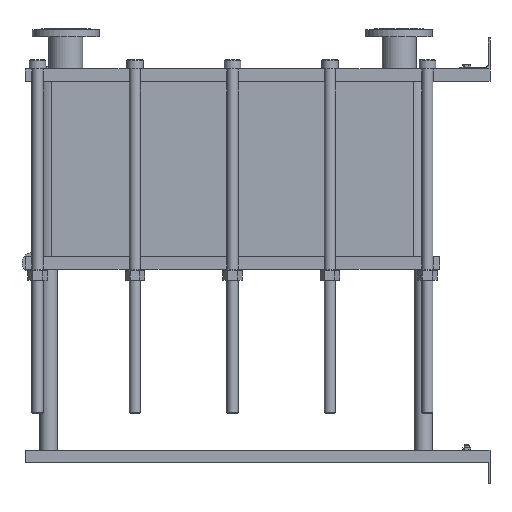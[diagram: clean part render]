
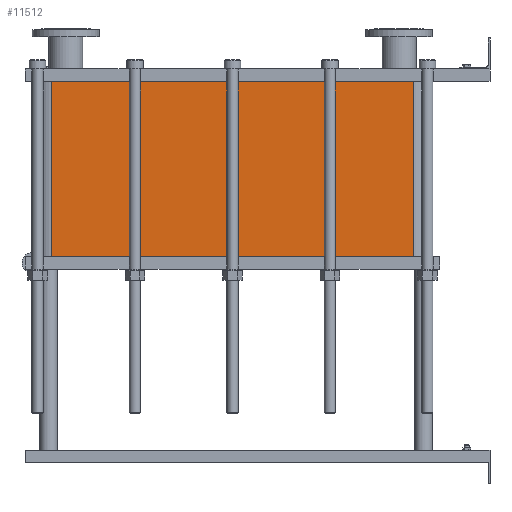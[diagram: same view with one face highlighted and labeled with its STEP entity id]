
A CAD part, left-side view. The second image highlights one B-rep face of the part: STEP entity #11512.
In plain terms, the highlighted planar face has unit normal (-1, 0, 0).
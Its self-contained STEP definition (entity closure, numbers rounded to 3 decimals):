
#1129=LINE('',#23232,#2102);
#1130=LINE('',#23236,#2103);
#1131=LINE('',#23238,#2104);
#1132=LINE('',#23239,#2105);
#2102=VECTOR('',#15887,10.);
#2103=VECTOR('',#15892,10.);
#2104=VECTOR('',#15893,10.);
#2105=VECTOR('',#15894,10.);
#3267=FACE_OUTER_BOUND('',#4093,.T.);
#4093=EDGE_LOOP('',(#10103,#10104,#10105,#10106));
#5642=VERTEX_POINT('',#23229);
#5643=VERTEX_POINT('',#23231);
#5644=VERTEX_POINT('',#23235);
#5645=VERTEX_POINT('',#23237);
#7159=EDGE_CURVE('',#5643,#5642,#1129,.T.);
#7161=EDGE_CURVE('',#5642,#5644,#1130,.T.);
#7162=EDGE_CURVE('',#5645,#5644,#1131,.T.);
#7163=EDGE_CURVE('',#5645,#5643,#1132,.T.);
#10103=ORIENTED_EDGE('',*,*,#7161,.T.);
#10104=ORIENTED_EDGE('',*,*,#7162,.F.);
#10105=ORIENTED_EDGE('',*,*,#7163,.T.);
#10106=ORIENTED_EDGE('',*,*,#7159,.T.);
#10857=PLANE('',#12751);
#11512=ADVANCED_FACE('',(#3267),#10857,.T.);
#12751=AXIS2_PLACEMENT_3D('',#23234,#15890,#15891);
#15887=DIRECTION('',(0.,0.,-1.));
#15890=DIRECTION('center_axis',(-1.,0.,0.));
#15891=DIRECTION('ref_axis',(0.,1.,0.));
#15892=DIRECTION('',(0.,-1.,0.));
#15893=DIRECTION('',(0.,0.,-1.));
#15894=DIRECTION('',(0.,1.,0.));
#23229=CARTESIAN_POINT('',(-200.,1414.,-565.8));
#23231=CARTESIAN_POINT('',(-200.,1414.,0.));
#23232=CARTESIAN_POINT('',(-200.,1414.,0.));
#23234=CARTESIAN_POINT('Origin',(-200.,248.,0.));
#23235=CARTESIAN_POINT('',(-200.,248.,-565.8));
#23236=CARTESIAN_POINT('',(-200.,539.5,-565.8));
#23237=CARTESIAN_POINT('',(-200.,248.,0.));
#23238=CARTESIAN_POINT('',(-200.,248.,0.));
#23239=CARTESIAN_POINT('',(-200.,248.,0.));
